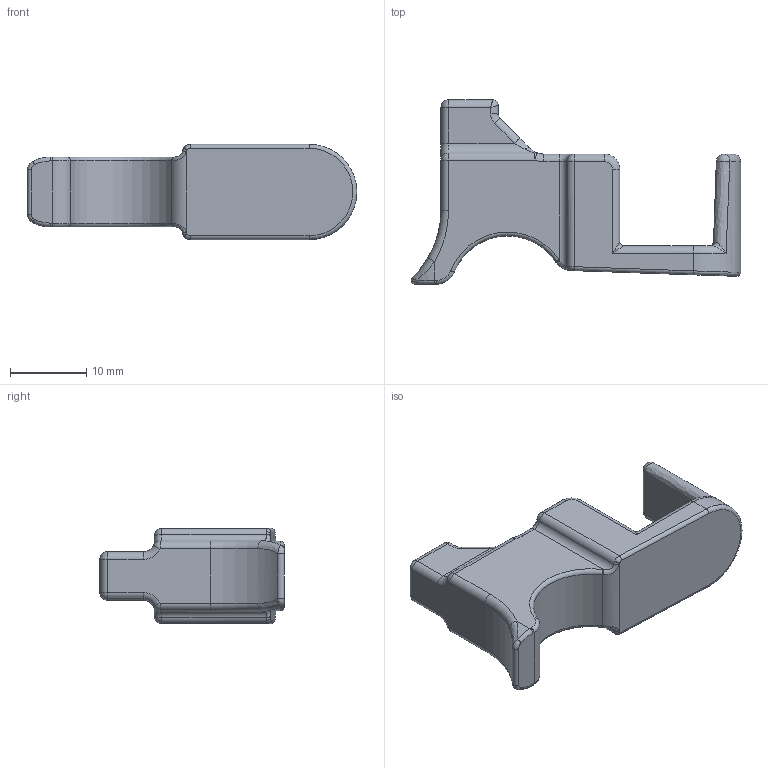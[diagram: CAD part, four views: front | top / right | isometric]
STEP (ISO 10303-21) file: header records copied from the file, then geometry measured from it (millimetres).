
FILE_DESCRIPTION(/* description */ (''),/* implementation_level */ '2;1');
FILE_NAME(/* name */ '/Users/tyler/Downloads/Printable AR DIAS/DIAS.step',/* time_stamp */ '2019-10-23T22:05:11-04:00',/* author */ (''),/* organization */ (''),/* preprocessor_version */ 'ST-DEVELOPER v18',/* originating_system */ 'Autodesk Translation Framework v8.6.0.1094',/* authorisation */ '');
FILE_SCHEMA (('AUTOMOTIVE_DESIGN { 1 0 10303 214 3 1 1 }'));
Length unit declared in the file: millimetre
Products named in the file (1): FusionComponent
Bounding box: 43.09 x 24.1 x 12.45 mm (x, y, z)
Volume: 4673.9 mm3; surface area: 2353.6 mm2
Topology: 1 solids, 1 shells, 121 faces, 271 edges, 146 vertices
Faces by surface type: cylinder 45, bspline 29, torus 20, plane 17, sphere 10
Entity records: 4046 total; most frequent: CARTESIAN_POINT 1426, DIRECTION 569, ORIENTED_EDGE 530, EDGE_CURVE 265, AXIS2_PLACEMENT_3D 243, VERTEX_POINT 146, CIRCLE 128, FACE_OUTER_BOUND 121
